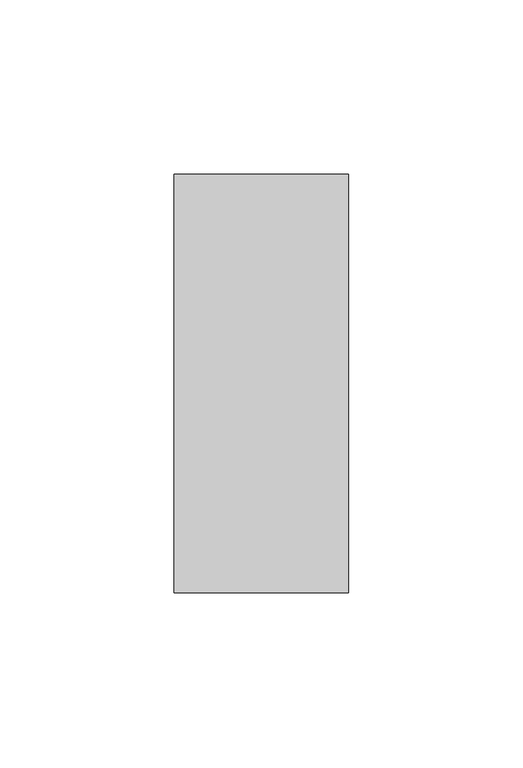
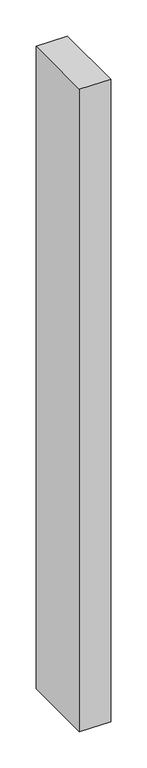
"""IFC4 building model written with IfcOpenShell, lengths in millimetres: member geometry, Прямоугольный импост : 50х120 мм."""

import ifcopenshell
import ifcopenshell.guid

model = None  # the IFC model being written
_history = None  # IfcOwnerHistory: only IFC2X3 demands one
_inside = {}  # id of a spatial element -> (the spatial element, [elements in it])
_under = {}  # id of a project, library or spatial element -> (it, [spatial elements below it])
_declared = {}  # id of a project -> (the project, [libraries it declares])
_typed = {}  # id of a type object -> (the type object, [elements of that type])
_made_of = {}  # id of a material, layer set ... -> (it, [elements and type objects made of it])


def new_model(schema):
    """Start an empty IFC model of exactly this schema.

    Asked for "IFC4X3", IfcOpenShell would pick the latest addendum, in which some entities
    have other attributes; the version numbers below select the first issue.
    IFC2X3 requires an IfcOwnerHistory on every rooted entity: one is made here for all.
    """
    global model, _history
    if schema == "IFC4X3":
        model = ifcopenshell.file(schema_version=(4, 3, 0, 0))
    else:
        model = ifcopenshell.file(schema=schema)
    _inside.clear()
    _under.clear()
    _declared.clear()
    _typed.clear()
    _made_of.clear()
    _history = None
    if model.schema == "IFC2X3":
        org = make("IfcOrganization", Name="unknown")
        user = make(
            "IfcPersonAndOrganization",
            ThePerson=make("IfcPerson", FamilyName="unknown"),
            TheOrganization=org,
        )
        app = make(
            "IfcApplication",
            ApplicationDeveloper=org,
            Version="unknown",
            ApplicationFullName="unknown",
            ApplicationIdentifier="unknown",
        )
        _history = make(
            "IfcOwnerHistory",
            OwningUser=user,
            OwningApplication=app,
            ChangeAction="ADDED",
            CreationDate=0,
        )
    return model


def make(cls, **values):
    """One entity of the class cls with the attributes given. An attribute that is None is left unset."""
    return model.create_entity(
        cls, **{name: value for name, value in values.items() if value is not None}
    )


def rooted(cls, **values):
    """An entity with a GlobalId (a new one), such as an element, a storey or a relation."""
    return make(cls, GlobalId=ifcopenshell.guid.new(), OwnerHistory=_history, **values)


def si_unit(unit_type, name, prefix=None):
    """IfcSIUnit, for example si_unit("LENGTHUNIT", "METRE", prefix="MILLI")."""
    return make("IfcSIUnit", UnitType=unit_type, Prefix=prefix, Name=name)


def assignment(units):
    """IfcUnitAssignment: the units of a project."""
    return None if units is None else make("IfcUnitAssignment", Units=units)


def point(xyz):
    """IfcCartesianPoint."""
    return None if xyz is None else make("IfcCartesianPoint", Coordinates=xyz)


def direction(xyz):
    """IfcDirection."""
    return None if xyz is None else make("IfcDirection", DirectionRatios=xyz)


def frame(location, z_axis=None, x_axis=None):
    """IfcAxis2Placement3D, a coordinate frame: its origin and axes. An axis left out is left unset."""
    return make(
        "IfcAxis2Placement3D",
        Location=point(location),
        Axis=direction(z_axis),
        RefDirection=direction(x_axis),
    )


def origin():
    """The frame at (0, 0, 0) with its axes left unset."""
    return frame((0.0, 0.0, 0.0))


def place(relative_to, where):
    """IfcLocalPlacement: puts the frame where relative to a parent placement (None: the world)."""
    return make(
        "IfcLocalPlacement", PlacementRelTo=relative_to, RelativePlacement=where
    )


def context(
    kind, dimensions, precision=None, world=None, true_north=None, identifier=None
):
    """IfcGeometricRepresentationContext, for example the 3D "Model" context."""
    return make(
        "IfcGeometricRepresentationContext",
        ContextIdentifier=identifier,
        ContextType=kind,
        CoordinateSpaceDimension=dimensions,
        Precision=precision,
        WorldCoordinateSystem=world,
        TrueNorth=true_north,
    )


def project(units=None, contexts=None):
    """IfcProject with its units and contexts."""
    return rooted(
        "IfcProject",
        Name="project",
        RepresentationContexts=contexts,
        UnitsInContext=assignment(units),
    )


def spatial(cls, under=None, at=None, **own):
    """A site, building, storey or space (cls), placed at a placement, below another one or the project."""
    s = rooted(cls, ObjectPlacement=at, **own)
    if under is not None:
        _under.setdefault(under.id(), (under, []))[1].append(s)
    return s


def polyline(points):
    """IfcPolyline through the points."""
    return make("IfcPolyline", Points=[point(p) for p in points])


def outline(outer, holes=None, kind="AREA"):
    """IfcArbitraryClosedProfileDef: a profile drawn as a closed curve; with holes, ...WithVoids."""
    if holes is None:
        return make("IfcArbitraryClosedProfileDef", ProfileType=kind, OuterCurve=outer)
    return make(
        "IfcArbitraryProfileDefWithVoids",
        ProfileType=kind,
        OuterCurve=outer,
        InnerCurves=holes,
    )


def extrude(swept, where, along, depth):
    """IfcExtrudedAreaSolid: the profile swept, set in the frame where, extruded along a direction by depth."""
    return make(
        "IfcExtrudedAreaSolid",
        SweptArea=swept,
        Position=where,
        ExtrudedDirection=direction(along),
        Depth=depth,
    )


def shape(context_of_items, identifier, shape_type, items):
    """IfcShapeRepresentation: the items that make up one representation, for example the "Body"."""
    return make(
        "IfcShapeRepresentation",
        ContextOfItems=context_of_items,
        RepresentationIdentifier=identifier,
        RepresentationType=shape_type,
        Items=items,
    )


def source(mapping_origin, context_of_items, identifier, shape_type, items):
    """IfcRepresentationMap: a shape defined once, which mapped items show again and again."""
    return make(
        "IfcRepresentationMap",
        MappingOrigin=mapping_origin,
        MappedRepresentation=shape(context_of_items, identifier, shape_type, items),
    )


def transform(
    local_origin,
    x_axis=None,
    y_axis=None,
    z_axis=None,
    scale=None,
    scale2=None,
    scale3=None,
    uniform=True,
):
    """IfcCartesianTransformationOperator3D, or its non-uniform kind. x_axis, y_axis, z_axis: its Axis1, 2, 3."""
    if uniform:
        return make(
            "IfcCartesianTransformationOperator3D",
            Axis1=direction(x_axis),
            Axis2=direction(y_axis),
            LocalOrigin=point(local_origin),
            Scale=scale,
            Axis3=direction(z_axis),
        )
    return make(
        "IfcCartesianTransformationOperator3DnonUniform",
        Axis1=direction(x_axis),
        Axis2=direction(y_axis),
        LocalOrigin=point(local_origin),
        Scale=scale,
        Axis3=direction(z_axis),
        Scale2=scale2,
        Scale3=scale3,
    )


def mapped(mapping_source, mapping_target):
    """IfcMappedItem: shows the shape of a source again, moved by a transform."""
    return make(
        "IfcMappedItem", MappingSource=mapping_source, MappingTarget=mapping_target
    )


def made_of(thing, what):
    """Note that an element or type object is made of a material, layer set ...; save() writes the relation."""
    if what is not None:
        _made_of.setdefault(what.id(), (what, []))[1].append(thing)
    return thing


def element(
    cls,
    number,
    at=None,
    inside=None,
    cuts=None,
    type_object=None,
    material=None,
    context=None,
    identifier="Body",
    shape_type=None,
    held_by="IfcProductDefinitionShape",
    body=None,
    shapes=None,
    **own,
):
    """One element of the class cls, such as IfcWall. Its Tag is "e" and its number.

    at: its placement. inside: the storey or other place that contains it. cuts: it is an
    opening in that element (IfcRelVoidsElement). A single representation is given by context,
    identifier, shape_type and body (its items); several are given by shapes. held_by: the class
    of the entity that holds the representations. save() writes the other relations.
    """
    e = rooted(cls, Tag="e%d" % number, ObjectPlacement=at, **own)
    if body is not None:
        shapes = [shape(context, identifier, shape_type, body)]
    if shapes is not None:
        e.Representation = make(held_by, Representations=shapes)
    if inside is not None:
        _inside.setdefault(inside.id(), (inside, []))[1].append(e)
    if cuts is not None:
        rooted(
            "IfcRelVoidsElement", RelatingBuildingElement=cuts, RelatedOpeningElement=e
        )
    if type_object is not None:
        _typed.setdefault(type_object.id(), (type_object, []))[1].append(e)
    return made_of(e, material)


def aggregate(whole, parts):
    """IfcRelAggregates: a whole, such as a stair, and the parts it consists of."""
    return rooted("IfcRelAggregates", RelatingObject=whole, RelatedObjects=parts)


def save(model, path):
    """Write the relations noted so far, then the file.

    IfcRelAggregates (storeys below a building ...), IfcRelContainedInSpatialStructure (elements
    in a storey), IfcRelDefinesByType, IfcRelAssociatesMaterial and IfcRelDeclares: one each for
    every whole, place, type object, material and project.
    """
    for whole, parts in _under.values():
        aggregate(whole, parts)
    for where, things in _inside.values():
        rooted(
            "IfcRelContainedInSpatialStructure",
            RelatedElements=things,
            RelatingStructure=where,
        )
    for kind, things in _typed.values():
        rooted("IfcRelDefinesByType", RelatedObjects=things, RelatingType=kind)
    for what, things in _made_of.values():
        rooted("IfcRelAssociatesMaterial", RelatedObjects=things, RelatingMaterial=what)
    for by, libraries in _declared.values():
        rooted("IfcRelDeclares", RelatingContext=by, RelatedDefinitions=libraries)
    model.write(path)


def member_7e95aabb(model_context):
    return source(origin(), model_context, "Body", "SweptSolid", [
        extrude(outline(polyline([(0.0, 60.0), (0.0, -60.0), (-50.0, -60.0), (-50.0, 60.0), (0.0, 60.0)])), frame((0.0, 0.0, -1087.5), z_axis=(0.0, 0.0, 1.0), x_axis=(1.0, 0.0, 0.0)), (0.0, 0.0, 1.0), 1087.5),
    ])


if __name__ == "__main__":
    model = new_model("IFC4")
    model_context = context("Model", 3, world=origin())
    ifc_project = project(units=[si_unit("LENGTHUNIT", "METRE", prefix="MILLI")], contexts=[model_context])
    site = spatial("IfcSite", under=ifc_project)
    building = spatial("IfcBuilding", under=site)
    placement = place(None, origin())
    member_shape = member_7e95aabb(model_context)
    element("IfcMember", 1, ObjectType="Прямоугольный импост : 50х120 мм", at=placement, inside=building, context=model_context, shape_type="MappedRepresentation", body=[
        mapped(member_shape, transform((0.0, 0.0, 0.0), x_axis=(1.0, 0.0, 0.0), y_axis=(0.0, 1.0, 0.0), z_axis=(0.0, 0.0, 1.0))),
    ])
    save(model, "model.ifc")
